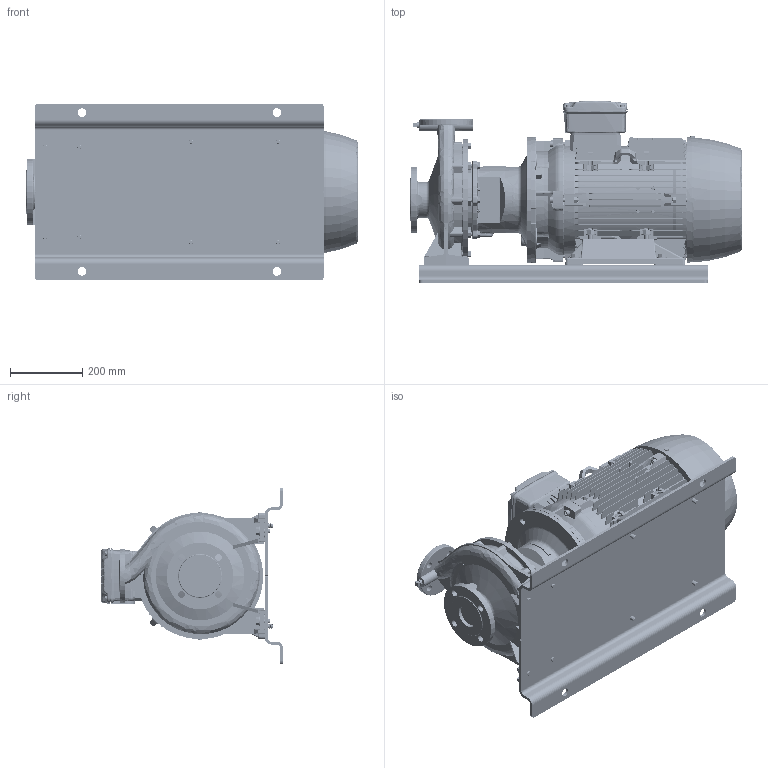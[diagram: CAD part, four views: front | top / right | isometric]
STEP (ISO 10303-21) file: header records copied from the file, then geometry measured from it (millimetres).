
FILE_DESCRIPTION (( 'STEP AP214' ), '1' );
FILE_NAME ('GSD2 40-250_22.0_(180ML)_W21_BP.STEP', '2024-04-05T05:14:25', ( '' ), ( '' ), 'SwSTEP 2.0', 'SolidWorks 2019', '' );
FILE_SCHEMA (( 'AUTOMOTIVE_DESIGN' ));
Length unit declared in the file: millimetre
Products named in the file (15): Parametric bolt and washer_SFT-A299B; Parametric bolt and washer_SFT-A305B; N5S3 GSDA-538 F1-1832929-00; Parametric bolt_SFT-A305B; Parametric Flat Washer_M12; 180M_L ALIE3_W21T_B35; 40-250-180M_L; GSD2  40-250_22.0_(180ML)_W21_BP; Parametric bolt_SFT-A299B
Assembly tree (27 placements, depth 3):
  GSD2  40-250_22.0_(180ML)_W21_BP
    40-250-180M_L
    N5S3 GSDA-538 F1-1832929-00
    Parametric bolt and washer_SFT-A299B
      Parametric bolt_SFT-A299B
      Parametric Flat Washer_M12
    Parametric bolt and washer_SFT-A299B
      Parametric bolt_SFT-A299B
      Parametric Flat Washer_M12
    Parametric bolt and washer_SFT-A299B
      Parametric bolt_SFT-A299B
      Parametric Flat Washer_M12
    Parametric bolt and washer_SFT-A299B
      Parametric bolt_SFT-A299B
      Parametric Flat Washer_M12
    180M_L ALIE3_W21T_B35
    Parametric bolt and washer_SFT-A305B
      Parametric bolt_SFT-A305B
      Parametric Flat Washer_M12
    Parametric bolt and washer_SFT-A305B
      Parametric bolt_SFT-A305B
      Parametric Flat Washer_M12
    Parametric bolt and washer_SFT-A305B
      Parametric bolt_SFT-A305B
      Parametric Flat Washer_M12
    Parametric bolt and washer_SFT-A305B
      Parametric bolt_SFT-A305B
      Parametric Flat Washer_M12
Bounding box: 919.8 x 504.53 x 490 mm (x, y, z)
Volume: 62679485.1 mm3; surface area: 4177535.3 mm2
Topology: 62 solids, 62 shells, 6576 faces, 17106 edges, 11111 vertices
Faces by surface type: plane 3933, cylinder 1239, cone 655, bspline 441, torus 292, sphere 16
Entity records: 235175 total; most frequent: CARTESIAN_POINT 74605, ORIENTED_EDGE 32316, DIRECTION 27589, EDGE_CURVE 16158, VERTEX_POINT 10508, LINE 10029, VECTOR 10029, AXIS2_PLACEMENT_3D 8780
